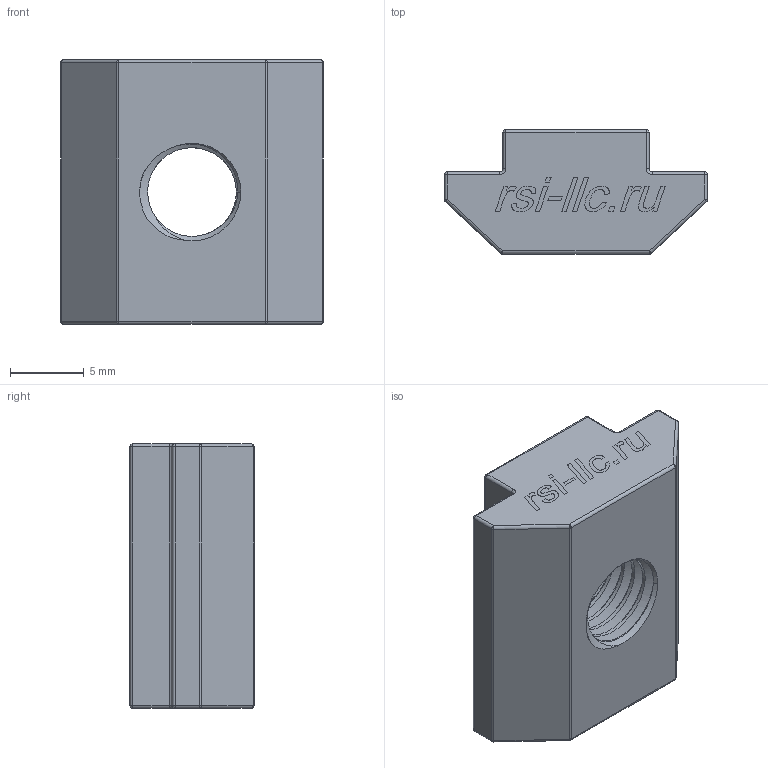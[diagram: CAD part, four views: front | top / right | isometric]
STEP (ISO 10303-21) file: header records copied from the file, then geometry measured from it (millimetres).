
FILE_DESCRIPTION (( 'STEP AP214' ), '1' );
FILE_NAME ('5073.STEP', '2022-10-10T08:19:35', ( '' ), ( '' ), 'SwSTEP 2.0', 'SolidWorks 2020', '' );
FILE_SCHEMA (( 'AUTOMOTIVE_DESIGN' ));
Length unit declared in the file: millimetre
Products named in the file (1): 5073
Bounding box: 17.8 x 8.4 x 17.91 mm (x, y, z)
Volume: 1760 mm3; surface area: 1407.5 mm2
Topology: 12 solids, 12 shells, 192 faces, 459 edges, 279 vertices
Faces by surface type: plane 85, cylinder 47, bspline 35, sphere 16, cone 5, torus 4
Entity records: 9670 total; most frequent: CARTESIAN_POINT 5473, ORIENTED_EDGE 894, DIRECTION 722, EDGE_CURVE 447, VERTEX_POINT 279, VECTOR 264, LINE 264, AXIS2_PLACEMENT_3D 229
